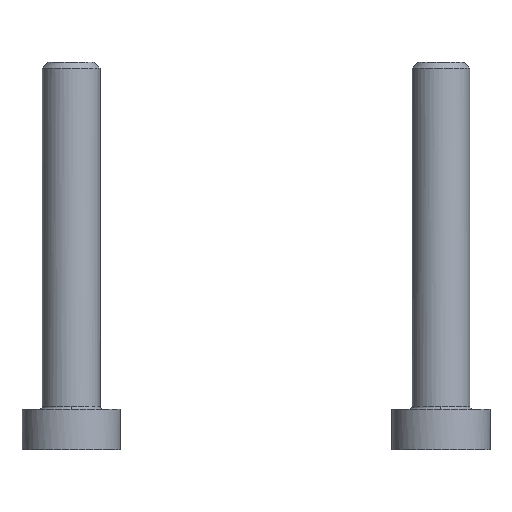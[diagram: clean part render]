
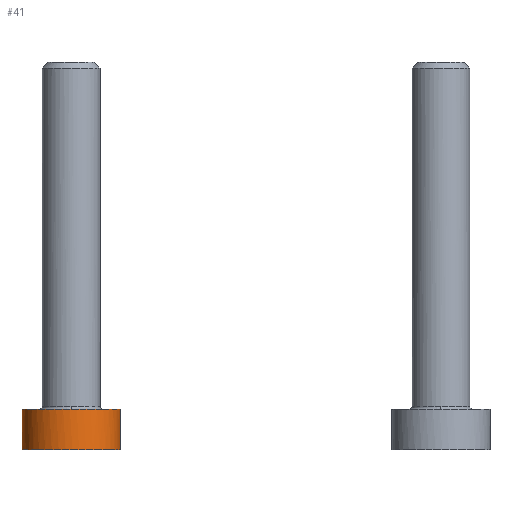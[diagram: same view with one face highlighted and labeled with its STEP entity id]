
A CAD part, left-side view. The second image highlights one B-rep face of the part: STEP entity #41.
In plain terms, the highlighted free-form (B-spline) face has degree [2, 1] with [9, 2] control points.
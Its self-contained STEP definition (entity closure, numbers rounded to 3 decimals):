
#41=ADVANCED_FACE('',(#91),#1551,.T.);
#91=FACE_OUTER_BOUND('',#141,.T.);
#141=EDGE_LOOP('',(#195,#196,#197,#198));
#195=ORIENTED_EDGE('',*,*,#1077,.T.);
#196=ORIENTED_EDGE('',*,*,#1078,.T.);
#197=ORIENTED_EDGE('',*,*,#1079,.T.);
#198=ORIENTED_EDGE('',*,*,#1080,.T.);
#423=(
BOUNDED_CURVE()
B_SPLINE_CURVE(2,(#2015,#2016,#2017,#2018,#2019),.UNSPECIFIED.,.F.,.F.)
B_SPLINE_CURVE_WITH_KNOTS((3,2,3),(0.,6.676,13.352),
 .UNSPECIFIED.)
CURVE()
GEOMETRIC_REPRESENTATION_ITEM()
RATIONAL_B_SPLINE_CURVE((1.,0.707,1.,0.707,1.))
REPRESENTATION_ITEM('')
);
#424=(
BOUNDED_CURVE()
B_SPLINE_CURVE(2,(#2026,#2027,#2028,#2029,#2030),.UNSPECIFIED.,.F.,.F.)
B_SPLINE_CURVE_WITH_KNOTS((3,2,3),(-13.352,-6.676,0.),
 .UNSPECIFIED.)
CURVE()
GEOMETRIC_REPRESENTATION_ITEM()
RATIONAL_B_SPLINE_CURVE((1.,0.707,1.,0.707,1.))
REPRESENTATION_ITEM('')
);
#456=(
BOUNDED_CURVE()
B_SPLINE_CURVE(2,(#2366,#2367,#2368,#2369,#2370),.UNSPECIFIED.,.F.,.F.)
B_SPLINE_CURVE_WITH_KNOTS((3,2,3),(0.,6.676,13.352),
 .UNSPECIFIED.)
CURVE()
GEOMETRIC_REPRESENTATION_ITEM()
RATIONAL_B_SPLINE_CURVE((1.,0.707,1.,0.707,1.))
REPRESENTATION_ITEM('')
);
#464=(
BOUNDED_CURVE()
B_SPLINE_CURVE(2,(#2410,#2411,#2412,#2413,#2414),.UNSPECIFIED.,.F.,.F.)
B_SPLINE_CURVE_WITH_KNOTS((3,2,3),(-13.352,-6.676,0.),
 .UNSPECIFIED.)
CURVE()
GEOMETRIC_REPRESENTATION_ITEM()
RATIONAL_B_SPLINE_CURVE((1.,0.707,1.,0.707,1.))
REPRESENTATION_ITEM('')
);
#507=PCURVE('',#1551,#735);
#508=PCURVE('',#1551,#736);
#509=PCURVE('',#1551,#737);
#510=PCURVE('',#1551,#738);
#604=PCURVE('',#1534,#832);
#609=PCURVE('',#1560,#837);
#611=PCURVE('',#1560,#839);
#614=PCURVE('',#1535,#842);
#735=DEFINITIONAL_REPRESENTATION('',(#1192),#3200);
#736=DEFINITIONAL_REPRESENTATION('',(#1193),#3200);
#737=DEFINITIONAL_REPRESENTATION('',(#1195),#3200);
#738=DEFINITIONAL_REPRESENTATION('',(#1196),#3200);
#832=DEFINITIONAL_REPRESENTATION('',(#456),#3200);
#837=DEFINITIONAL_REPRESENTATION('',(#1310),#3200);
#839=DEFINITIONAL_REPRESENTATION('',(#1312),#3200);
#842=DEFINITIONAL_REPRESENTATION('',(#464),#3200);
#963=SURFACE_CURVE('',#1191,(#507,#609),.PCURVE_S1.);
#964=SURFACE_CURVE('',#423,(#508,#604),.PCURVE_S1.);
#965=SURFACE_CURVE('',#1194,(#509,#611),.PCURVE_S1.);
#966=SURFACE_CURVE('',#424,(#510,#614),.PCURVE_S1.);
#1077=EDGE_CURVE('',#1449,#1450,#963,.T.);
#1078=EDGE_CURVE('',#1450,#1451,#964,.T.);
#1079=EDGE_CURVE('',#1451,#1452,#965,.T.);
#1080=EDGE_CURVE('',#1452,#1449,#966,.T.);
#1191=B_SPLINE_CURVE_WITH_KNOTS('',1,(#2011,#2012),.UNSPECIFIED.,.F.,.F.,
(2,2),(-3.5,0.),.UNSPECIFIED.);
#1192=B_SPLINE_CURVE_WITH_KNOTS('',1,(#2013,#2014),.UNSPECIFIED.,.F.,.F.,
(2,2),(-3.5,0.),.UNSPECIFIED.);
#1193=B_SPLINE_CURVE_WITH_KNOTS('',1,(#2020,#2021),.UNSPECIFIED.,.F.,.F.,
(2,2),(0.,13.352),.UNSPECIFIED.);
#1194=B_SPLINE_CURVE_WITH_KNOTS('',1,(#2022,#2023),.UNSPECIFIED.,.F.,.F.,
(2,2),(-3.5,0.),.UNSPECIFIED.);
#1195=B_SPLINE_CURVE_WITH_KNOTS('',1,(#2024,#2025),.UNSPECIFIED.,.F.,.F.,
(2,2),(-3.5,0.),.UNSPECIFIED.);
#1196=B_SPLINE_CURVE_WITH_KNOTS('',1,(#2031,#2032),.UNSPECIFIED.,.F.,.F.,
(2,2),(-13.352,0.),.UNSPECIFIED.);
#1310=B_SPLINE_CURVE_WITH_KNOTS('',1,(#2392,#2393),.UNSPECIFIED.,.F.,.F.,
(2,2),(-3.5,0.),.UNSPECIFIED.);
#1312=B_SPLINE_CURVE_WITH_KNOTS('',1,(#2401,#2402),.UNSPECIFIED.,.F.,.F.,
(2,2),(-3.5,0.),.UNSPECIFIED.);
#1449=VERTEX_POINT('',#1975);
#1450=VERTEX_POINT('',#1976);
#1451=VERTEX_POINT('',#1977);
#1452=VERTEX_POINT('',#1978);
#1534=PLANE('',#1604);
#1535=PLANE('',#1605);
#1551=(
BOUNDED_SURFACE()
B_SPLINE_SURFACE(2,1,((#1654,#1655),(#1656,#1657),(#1658,#1659),(#1660,#1661),
(#1662,#1663),(#1664,#1665),(#1666,#1667),(#1668,#1669),(#1670,#1671)),
 .UNSPECIFIED.,.T.,.F.,.F.)
B_SPLINE_SURFACE_WITH_KNOTS((3,2,2,2,3),(2,2),(0.,1.571,3.142,
4.712,6.283),(0.,4.202),.UNSPECIFIED.)
GEOMETRIC_REPRESENTATION_ITEM()
RATIONAL_B_SPLINE_SURFACE(((1.,1.),(0.707,0.707),
(1.,1.),(0.707,0.707),(1.,1.),(0.707,
0.707),(1.,1.),(0.707,0.707),(1.,1.)))
REPRESENTATION_ITEM('')
SURFACE()
);
#1560=(
BOUNDED_SURFACE()
B_SPLINE_SURFACE(2,1,((#1956,#1957),(#1958,#1959),(#1960,#1961),(#1962,#1963),
(#1964,#1965),(#1966,#1967),(#1968,#1969),(#1970,#1971),(#1972,#1973)),
 .UNSPECIFIED.,.T.,.F.,.F.)
B_SPLINE_SURFACE_WITH_KNOTS((3,2,2,2,3),(2,2),(0.,1.571,3.142,
4.712,6.283),(0.,4.202),.UNSPECIFIED.)
GEOMETRIC_REPRESENTATION_ITEM()
RATIONAL_B_SPLINE_SURFACE(((1.,1.),(0.707,0.707),
(1.,1.),(0.707,0.707),(1.,1.),(0.707,
0.707),(1.,1.),(0.707,0.707),(1.,1.)))
REPRESENTATION_ITEM('')
SURFACE()
);
#1604=AXIS2_PLACEMENT_3D('',#1955,#1636,$);
#1605=AXIS2_PLACEMENT_3D('',#1974,#1637,$);
#1636=DIRECTION('',(0.,0.,-1.));
#1637=DIRECTION('',(0.,0.,1.));
#1654=CARTESIAN_POINT('',(698.25,61.,14.149));
#1655=CARTESIAN_POINT('',(698.25,61.,18.351));
#1656=CARTESIAN_POINT('',(698.25,56.75,14.149));
#1657=CARTESIAN_POINT('',(698.25,56.75,18.351));
#1658=CARTESIAN_POINT('',(694.,56.75,14.149));
#1659=CARTESIAN_POINT('',(694.,56.75,18.351));
#1660=CARTESIAN_POINT('',(689.75,56.75,14.149));
#1661=CARTESIAN_POINT('',(689.75,56.75,18.351));
#1662=CARTESIAN_POINT('',(689.75,61.,14.149));
#1663=CARTESIAN_POINT('',(689.75,61.,18.351));
#1664=CARTESIAN_POINT('',(689.75,65.25,14.149));
#1665=CARTESIAN_POINT('',(689.75,65.25,18.351));
#1666=CARTESIAN_POINT('',(694.,65.25,14.149));
#1667=CARTESIAN_POINT('',(694.,65.25,18.351));
#1668=CARTESIAN_POINT('',(698.25,65.25,14.149));
#1669=CARTESIAN_POINT('',(698.25,65.25,18.351));
#1670=CARTESIAN_POINT('',(698.25,61.,14.149));
#1671=CARTESIAN_POINT('',(698.25,61.,18.351));
#1955=CARTESIAN_POINT('',(699.101,66.101,18.));
#1956=CARTESIAN_POINT('',(689.75,61.,14.149));
#1957=CARTESIAN_POINT('',(689.75,61.,18.351));
#1958=CARTESIAN_POINT('',(689.75,65.25,14.149));
#1959=CARTESIAN_POINT('',(689.75,65.25,18.351));
#1960=CARTESIAN_POINT('',(694.,65.25,14.149));
#1961=CARTESIAN_POINT('',(694.,65.25,18.351));
#1962=CARTESIAN_POINT('',(698.25,65.25,14.149));
#1963=CARTESIAN_POINT('',(698.25,65.25,18.351));
#1964=CARTESIAN_POINT('',(698.25,61.,14.149));
#1965=CARTESIAN_POINT('',(698.25,61.,18.351));
#1966=CARTESIAN_POINT('',(698.25,56.75,14.149));
#1967=CARTESIAN_POINT('',(698.25,56.75,18.351));
#1968=CARTESIAN_POINT('',(694.,56.75,14.149));
#1969=CARTESIAN_POINT('',(694.,56.75,18.351));
#1970=CARTESIAN_POINT('',(689.75,56.75,14.149));
#1971=CARTESIAN_POINT('',(689.75,56.75,18.351));
#1972=CARTESIAN_POINT('',(689.75,61.,14.149));
#1973=CARTESIAN_POINT('',(689.75,61.,18.351));
#1974=CARTESIAN_POINT('',(699.101,55.899,14.5));
#1975=CARTESIAN_POINT('',(694.,65.25,14.5));
#1976=CARTESIAN_POINT('',(694.,65.25,18.));
#1977=CARTESIAN_POINT('',(694.,56.75,18.));
#1978=CARTESIAN_POINT('',(694.,56.75,14.5));
#2011=CARTESIAN_POINT('',(694.,65.25,14.5));
#2012=CARTESIAN_POINT('',(694.,65.25,18.));
#2013=CARTESIAN_POINT('',(4.712,0.351));
#2014=CARTESIAN_POINT('',(4.712,3.851));
#2015=CARTESIAN_POINT('',(694.,65.25,18.));
#2016=CARTESIAN_POINT('',(689.75,65.25,18.));
#2017=CARTESIAN_POINT('',(689.75,61.,18.));
#2018=CARTESIAN_POINT('',(689.75,56.75,18.));
#2019=CARTESIAN_POINT('',(694.,56.75,18.));
#2020=CARTESIAN_POINT('',(4.712,3.851));
#2021=CARTESIAN_POINT('',(1.571,3.851));
#2022=CARTESIAN_POINT('',(694.,56.75,18.));
#2023=CARTESIAN_POINT('',(694.,56.75,14.5));
#2024=CARTESIAN_POINT('',(1.571,3.851));
#2025=CARTESIAN_POINT('',(1.571,0.351));
#2026=CARTESIAN_POINT('',(694.,56.75,14.5));
#2027=CARTESIAN_POINT('',(689.75,56.75,14.5));
#2028=CARTESIAN_POINT('',(689.75,61.,14.5));
#2029=CARTESIAN_POINT('',(689.75,65.25,14.5));
#2030=CARTESIAN_POINT('',(694.,65.25,14.5));
#2031=CARTESIAN_POINT('',(1.571,0.351));
#2032=CARTESIAN_POINT('',(4.712,0.351));
#2366=CARTESIAN_POINT('',(-0.775,0.));
#2367=CARTESIAN_POINT('',(-0.775,4.25));
#2368=CARTESIAN_POINT('',(3.475,4.25));
#2369=CARTESIAN_POINT('',(7.725,4.25));
#2370=CARTESIAN_POINT('',(7.725,0.));
#2392=CARTESIAN_POINT('',(1.571,0.351));
#2393=CARTESIAN_POINT('',(1.571,3.851));
#2401=CARTESIAN_POINT('',(4.712,3.851));
#2402=CARTESIAN_POINT('',(4.712,0.351));
#2410=CARTESIAN_POINT('',(-6.375,0.));
#2411=CARTESIAN_POINT('',(-6.375,4.25));
#2412=CARTESIAN_POINT('',(-2.125,4.25));
#2413=CARTESIAN_POINT('',(2.125,4.25));
#2414=CARTESIAN_POINT('',(2.125,0.));
#3200=(
GEOMETRIC_REPRESENTATION_CONTEXT(2)
PARAMETRIC_REPRESENTATION_CONTEXT()
REPRESENTATION_CONTEXT('pspace','')
);
